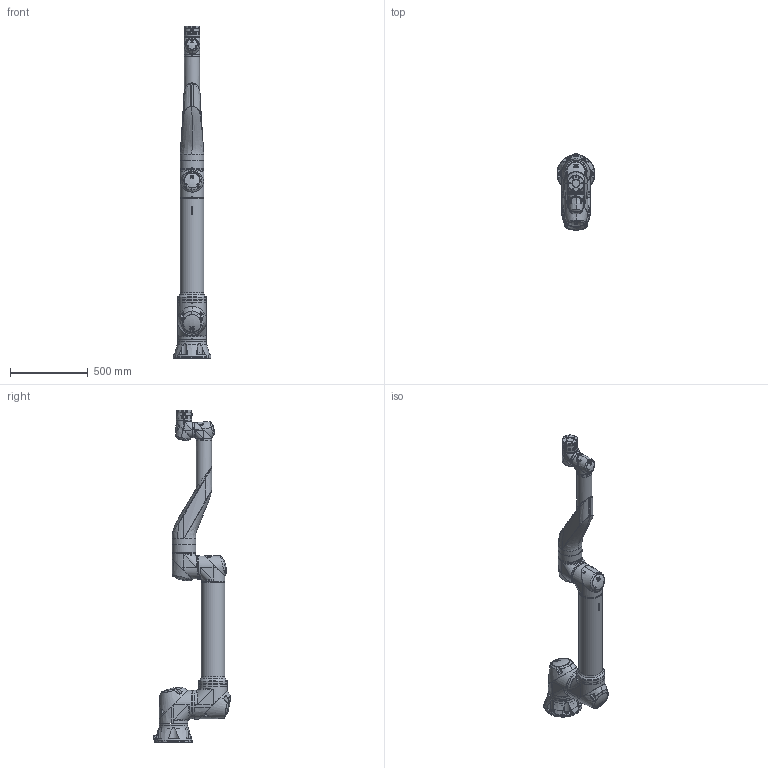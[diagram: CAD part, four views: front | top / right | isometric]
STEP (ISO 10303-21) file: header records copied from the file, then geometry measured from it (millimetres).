
FILE_DESCRIPTION(/* description */ (''),/* implementation_level */ '2;1');
FILE_NAME(/* name */ 'RB20-1900ES_3D.stp',/* time_stamp */ '2024-08-22T11:17:15+09:00',/* author */ ('TK AHN'),/* organization */ (''),/* preprocessor_version */ 'ST-DEVELOPER v20',/* originating_system */ 'Autodesk Inventor 2025',/* authorisation */ '');
FILE_SCHEMA (('AUTOMOTIVE_DESIGN { 1 0 10303 214 3 1 1 }'));
Length unit declared in the file: millimetre
Products named in the file (32): RB20-1900ES_3D; RB20-1900ES_BASE; RB20-1900ES_LINK1; RB20-1900ES_LINK2; RB20-1900ES_파이프_기본형_
R1; RB20-1900ES_LINK1_1; Module 7_MAIN HOUSING; Module 7_COVER; Module 7_BAND; Module 6; RB20-1900ES_LINK3; Module 6_COVER; Module 6_MAIN HOUSING; Module 6_BAND; RB20-1900ES_LINK4; RB20-1900ES_S파이프_기본형_
R1; Module 4; Module 4_BAND; RB20-1900ES_LINK5; Module 4_MAIN HOUSING; Module 4_COVER; Module 4_BAND2; RB20-1900ES_LINK6; 툴플랜지4_Frame; 툴플랜지4_Frame bracket; 툴플랜지4_teaching button; 툴플랜지4_teaching button cover; 툴플랜지4_screw m2.5; 툴플랜지4_i.o connector cap; 툴플랜지_i.o connector cap2; 툴플랜지_i.o connector 2; 툴플랜지_i.o connector
Assembly tree (43 placements, depth 4):
  RB20-1900ES_3D
    RB20-1900ES_BASE
    RB20-1900ES_LINK1
      Module 7_MAIN HOUSING
      Module 7_COVER
      Module 7_BAND
    RB20-1900ES_LINK2
      RB20-1900ES_파이프_기본형_
R1
      RB20-1900ES_LINK1_1
        Module 7_MAIN HOUSING
        Module 7_COVER
        Module 7_BAND
      Module 7_BAND
      Module 6
        Module 6_COVER
        Module 6_MAIN HOUSING
        Module 6_BAND
      Module 6_BAND
    RB20-1900ES_LINK3
      Module 6_COVER
      Module 6_MAIN HOUSING
      Module 6_BAND
    RB20-1900ES_LINK4
      RB20-1900ES_S파이프_기본형_
R1
      Module 4
        Module 4_MAIN HOUSING
        Module 4_COVER
        Module 4_BAND
      Module 4_BAND
    RB20-1900ES_LINK5
      Module 4_MAIN HOUSING
      Module 4_COVER
      Module 4_BAND2
    RB20-1900ES_LINK6
      툴플랜지4_Frame
      툴플랜지4_Frame bracket
      툴플랜지4_teaching button
      툴플랜지4_teaching button cover
      툴플랜지4_screw m2.5  x2
      툴플랜지4_i.o connector cap
      툴플랜지_i.o connector cap2
      툴플랜지_i.o connector 2
      툴플랜지_i.o connector
Bounding box: 245 x 492.38 x 2141 mm (x, y, z)
Volume: 48629476.9 mm3; surface area: 2408040.9 mm2
Topology: 36 solids, 37 shells, 3453 faces, 9325 edges, 6162 vertices
Faces by surface type: plane 1341, cylinder 912, bspline 705, cone 302, torus 154, sphere 39
Full cylindrical faces by diameter (mm): 0.6 x8, 0.7 x8, 0.9 x16, 1.03 x8, 1.5 x10, 1.7 x20, 2.459 x11, 2.5 x16, 2.6 x12, 3 x4, 3.1 x10, 3.2 x6, 3.242 x8, 3.4 x4, 4 x1, 5.1 x10, 5.6 x4, 6 x1, 6.5 x17, 6.647 x6, 6.7 x1, 6.9 x1, 6.917 x1, 7 x17, 7.1 x1, 7.4 x1, 7.794 x1, 8 x2, 8.1 x2, 8.376 x2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
Entity records: 207051 total; most frequent: CARTESIAN_POINT 137119, ORIENTED_EDGE 15066, DIRECTION 12734, EDGE_CURVE 7533, VERTEX_POINT 5010, AXIS2_PLACEMENT_3D 4877, EDGE_LOOP 3174, LINE 2980
